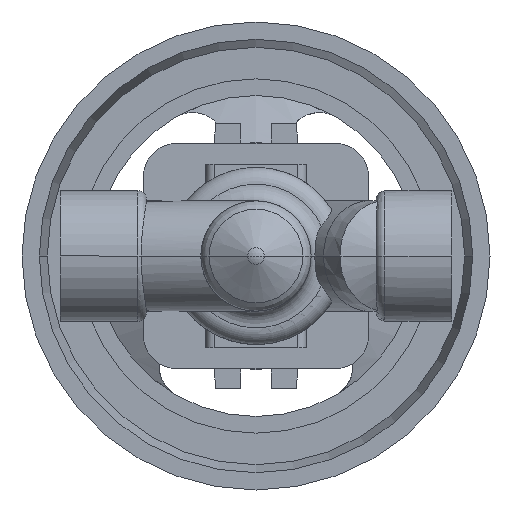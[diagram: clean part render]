
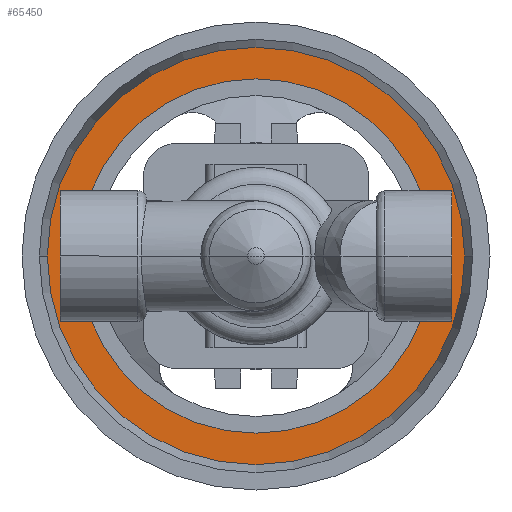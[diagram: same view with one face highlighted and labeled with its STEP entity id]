
A CAD part, front view. The second image highlights one B-rep face of the part: STEP entity #65450.
In plain terms, the highlighted planar face has unit normal (0, -1, 0).
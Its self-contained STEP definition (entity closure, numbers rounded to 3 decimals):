
#64900=CARTESIAN_POINT('',(-3.912,239.,0.));
#64910=VERTEX_POINT('',#64900);
#64940=CARTESIAN_POINT('',(58.5,239.,0.));
#64950=DIRECTION('',(0.,1.,0.));
#64960=DIRECTION('',(-1.,0.,0.));
#64970=AXIS2_PLACEMENT_3D('',#64940,#64950,#64960);
#64980=CIRCLE('',#64970,62.412);
#64990=CARTESIAN_POINT('',(120.912,239.,0.));
#65000=VERTEX_POINT('',#64990);
#65010=EDGE_CURVE('',#65000,#64910,#64980,.T.);
#65200=CARTESIAN_POINT('',(0.794,239.,0.))
;
#65210=DIRECTION('',(0.,-1.,0.));
#65220=DIRECTION('',(1.,0.,0.));
#65230=AXIS2_PLACEMENT_3D('',#65200,#65210,#65220);
#65240=PLANE('',#65230);
#65250=ORIENTED_EDGE('',*,*,#65010,.F.);
#65260=EDGE_CURVE('',#64910,#65000,#64980,.T.);
#65270=ORIENTED_EDGE('',*,*,#65260,.F.);
#65280=EDGE_LOOP('',(#65270,#65250));
#65290=FACE_OUTER_BOUND('',#65280,.T.);
#65300=CARTESIAN_POINT('',(58.5,239.,0.));
#65310=DIRECTION('',(0.,1.,0.));
#65320=DIRECTION('',(-1.,0.,0.));
#65330=AXIS2_PLACEMENT_3D('',#65300,#65310,#65320);
#65340=CIRCLE('',#65330,53.);
#65350=CARTESIAN_POINT('',(111.5,239.,0.));
#65360=VERTEX_POINT('',#65350);
#65370=CARTESIAN_POINT('',(5.5,239.,0.));
#65380=VERTEX_POINT('',#65370);
#65390=EDGE_CURVE('',#65360,#65380,#65340,.T.);
#65400=ORIENTED_EDGE('',*,*,#65390,.T.);
#65410=EDGE_CURVE('',#65380,#65360,#65340,.T.);
#65420=ORIENTED_EDGE('',*,*,#65410,.T.);
#65430=EDGE_LOOP('',(#65420,#65400));
#65440=FACE_BOUND('',#65430,.T.);
#65450=ADVANCED_FACE('',(#65290,#65440),#65240,.T.);
